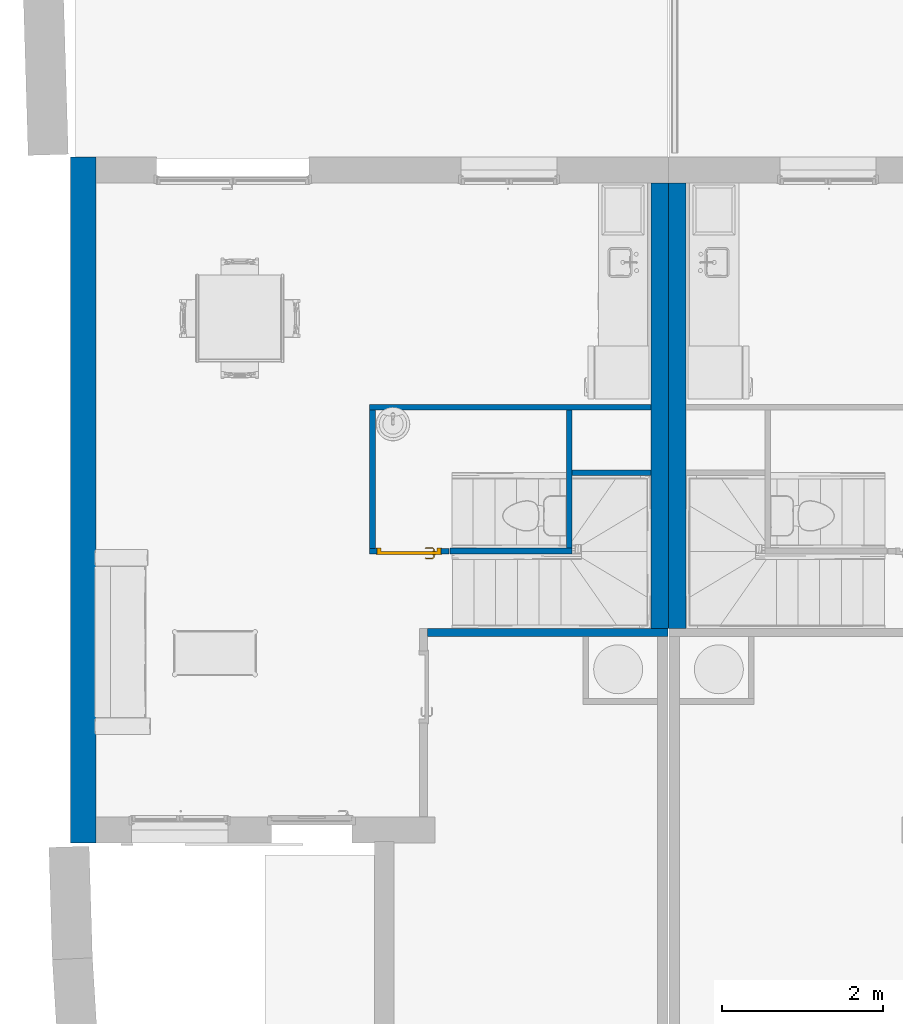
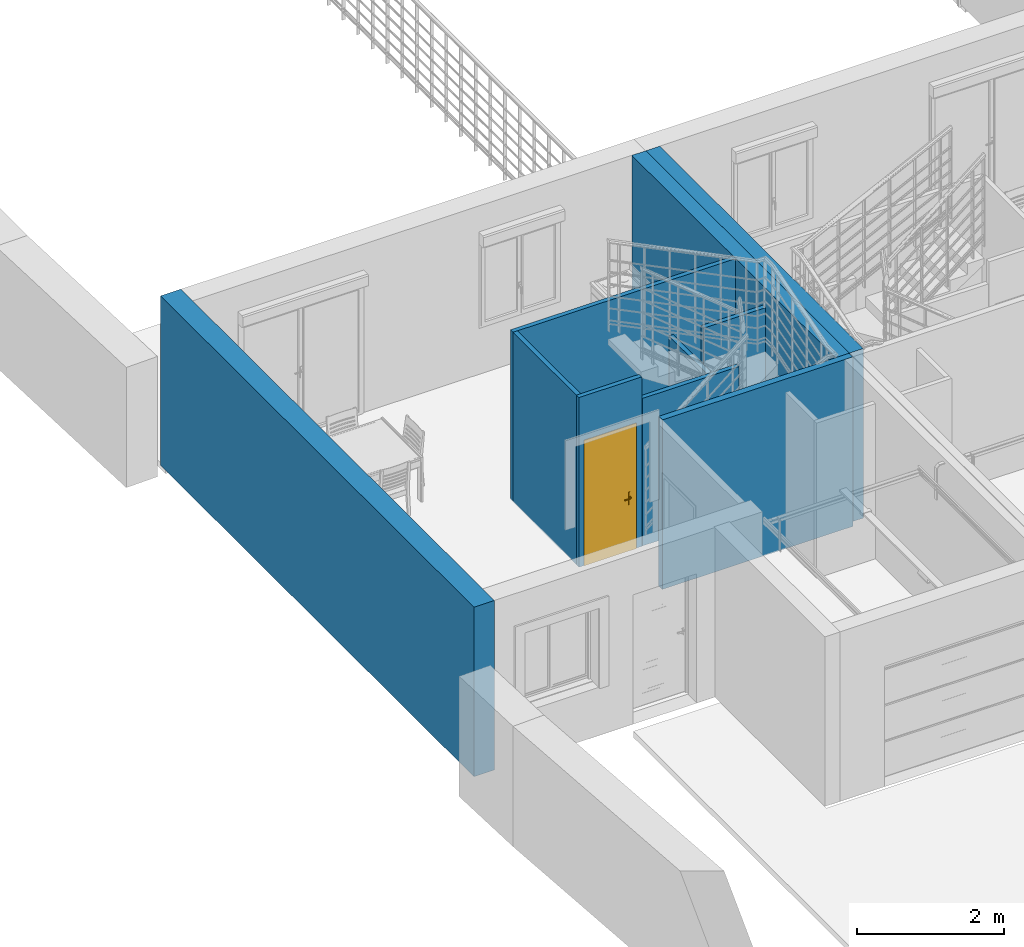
# One storey, part 9 of 30: 10 walls, 1 door, 1 opening.
"""IFC2X3 building model written with IfcOpenShell, lengths in metres."""

from ifc_helpers import new_model, entity, si_unit, converted_unit, derived_unit, direction, frame, frame_2d, origin, place, context, subcontext, project, spatial, rectangle, extrude, faceted_brep, source, transform, mapped, material, material_list, layer, layer_set, layer_usage, type_object, type_shapes, element, fill, save


model = new_model("IFC2X3")

# Units and contexts
model_context = context("Model", 3, precision=1e-05, world=origin(), true_north=direction((6.12303176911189e-17, 1.0)))
body_context = subcontext(model_context, "Body", "Model", "MODEL_VIEW")
ifc_project = project(units=[si_unit("LENGTHUNIT", "METRE"), si_unit("AREAUNIT", "SQUARE_METRE"), si_unit("VOLUMEUNIT", "CUBIC_METRE"), converted_unit("PLANEANGLEUNIT", "DEGREE", entity("IfcRatioMeasure", 0.0174532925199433), si_unit("PLANEANGLEUNIT", "RADIAN"), dimensions=[0, 0, 0, 0, 0, 0, 0]), si_unit("MASSUNIT", "GRAM", prefix="KILO"), derived_unit("MASSDENSITYUNIT", [(si_unit("MASSUNIT", "GRAM", prefix="KILO"), 1), (si_unit("LENGTHUNIT", "METRE"), -3)]), si_unit("TIMEUNIT", "SECOND"), si_unit("FREQUENCYUNIT", "HERTZ"), si_unit("THERMODYNAMICTEMPERATUREUNIT", "DEGREE_CELSIUS"), derived_unit("THERMALTRANSMITTANCEUNIT", [(si_unit("MASSUNIT", "GRAM", prefix="KILO"), 1), (si_unit("THERMODYNAMICTEMPERATUREUNIT", "KELVIN"), -1), (si_unit("TIMEUNIT", "SECOND"), -3)]), derived_unit("VOLUMETRICFLOWRATEUNIT", [(si_unit("LENGTHUNIT", "METRE"), 3), (si_unit("TIMEUNIT", "SECOND"), -1)]), si_unit("ELECTRICCURRENTUNIT", "AMPERE"), si_unit("ELECTRICVOLTAGEUNIT", "VOLT"), si_unit("POWERUNIT", "WATT"), si_unit("FORCEUNIT", "NEWTON", prefix="KILO"), si_unit("ILLUMINANCEUNIT", "LUX"), si_unit("LUMINOUSFLUXUNIT", "LUMEN"), si_unit("LUMINOUSINTENSITYUNIT", "CANDELA"), derived_unit("USERDEFINED", [(si_unit("MASSUNIT", "GRAM", prefix="KILO"), -1), (si_unit("LENGTHUNIT", "METRE"), -2), (si_unit("TIMEUNIT", "SECOND"), 3), (si_unit("LUMINOUSFLUXUNIT", "LUMEN"), 1)]), derived_unit("LINEARVELOCITYUNIT", [(si_unit("LENGTHUNIT", "METRE"), 1), (si_unit("TIMEUNIT", "SECOND"), -1)]), si_unit("PRESSUREUNIT", "PASCAL"), derived_unit("USERDEFINED", [(si_unit("LENGTHUNIT", "METRE"), -2), (si_unit("MASSUNIT", "GRAM", prefix="KILO"), 1), (si_unit("TIMEUNIT", "SECOND"), -2)])], contexts=[model_context])

# Site, building, storey
site_placement = place(None, origin())
site = spatial("IfcSite", under=ifc_project, at=site_placement, Name="Surface", CompositionType="ELEMENT")
building_placement = place(site_placement, origin())
building = spatial("IfcBuilding", under=site, at=building_placement, CompositionType="ELEMENT")
storey_placement = place(building_placement, origin())
storey = spatial("IfcBuildingStorey", under=building, at=storey_placement, Name="Plan des fondations  Maisons 1 et 2", CompositionType="ELEMENT", Elevation=0.0)

# Walls
ifc_material_1 = material(Name="Enduit blanc cassé2")
ifc_layer_1 = layer(ifc_material_1, 0.02)
ifc_material_2 = material(Name="Parpaing")
ifc_layer_2 = layer(ifc_material_2, 0.2)
ifc_material_3 = material(Name="Isolant")
ifc_layer_3 = layer(ifc_material_3, 0.1)
ifc_layer_set_1 = layer_set([ifc_layer_1, ifc_layer_2, ifc_layer_3], Name="Mur de base:Ext. Parpaing 20 + Isolant 10 enduit blanc cassé")
ifc_layer_usage_1 = layer_usage(ifc_layer_set_1, "AXIS2", "NEGATIVE", 0.16)
wall_type_1 = type_object("IfcWallType", Name="Mur de base:Ext. Parpaing 20 + Isolant 10 enduit blanc cassé", PredefinedType="STANDARD", material=ifc_layer_set_1)
wall_1_placement = place(storey_placement, frame((61.5463634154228, 79.8877566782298, 0.0), z_axis=(0.0, 0.0, 1.0), x_axis=(0.0, 1.0, 0.0)))
element("IfcWallStandardCase", 1, at=wall_1_placement, inside=storey, type_object=wall_type_1, material=ifc_layer_usage_1, Name="Mur de base:Ext. Parpaing 20 + Isolant 10 enduit blanc cassé", ObjectType="Mur de base:Ext. Parpaing 20 + Isolant 10 enduit blanc cassé", context=body_context, shape_type="SweptSolid", body=[
    extrude(rectangle(XDim=8.54, YDim=0.319999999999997, at=frame_2d((4.27, 1.23512311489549e-15), x_axis=(-1.0, 0.0))), origin(), (0.0, 0.0, 1.0), 2.82),
])
ifc_layer_4 = layer(ifc_material_1, 0.02)
ifc_layer_5 = layer(ifc_material_2, 0.1)
ifc_layer_6 = layer(ifc_material_3, 0.1)
ifc_layer_set_2 = layer_set([ifc_layer_4, ifc_layer_5, ifc_layer_6], Name="Mur de base:Ext. Parpaing 10 + Isolant 10 enduit blanc cassé")
ifc_layer_usage_2 = layer_usage(ifc_layer_set_2, "AXIS2", "POSITIVE", -0.11)
wall_type_2 = type_object("IfcWallType", Name="Mur de base:Ext. Parpaing 10 + Isolant 10 enduit blanc cassé", PredefinedType="STANDARD", material=ifc_layer_set_2)
wall_2_placement = place(storey_placement, frame((68.9446263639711, 88.1077566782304, 0.0), z_axis=(0.0, 0.0, 1.0), x_axis=(0.0, -1.0, 0.0)))
element("IfcWallStandardCase", 2, at=wall_2_placement, inside=storey, type_object=wall_type_2, material=ifc_layer_usage_2, Name="Mur de base:Ext. Parpaing 10 + Isolant 10 enduit blanc cassé", ObjectType="Mur de base:Ext. Parpaing 10 + Isolant 10 enduit blanc cassé", context=body_context, shape_type="SweptSolid", body=[
    extrude(rectangle(XDim=5.55000000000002, YDim=0.220000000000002, at=frame_2d((2.77500000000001, 0.0), x_axis=(-1.0, 0.0))), origin(), (0.0, 0.0, 1.0), 2.82),
])
ifc_layer_usage_3 = layer_usage(ifc_layer_set_2, "AXIS2", "NEGATIVE", 0.11)
wall_3_placement = place(storey_placement, frame((68.7246263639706, 88.1077566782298, 0.0), z_axis=(0.0, 0.0, 1.0), x_axis=(0.0, -1.0, 0.0)))
element("IfcWallStandardCase", 3, at=wall_3_placement, inside=storey, type_object=wall_type_2, material=ifc_layer_usage_3, Name="Mur de base:Ext. Parpaing 10 + Isolant 10 enduit blanc cassé", ObjectType="Mur de base:Ext. Parpaing 10 + Isolant 10 enduit blanc cassé", context=body_context, shape_type="SweptSolid", body=[
    extrude(rectangle(XDim=5.55000000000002, YDim=0.220000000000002, at=frame_2d((2.77500000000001, -9.5062846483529e-16), x_axis=(-1.0, 0.0))), origin(), (0.0, 0.0, 1.0), 2.82),
])
ifc_material_4 = material(Name="Peinture - Blanc")
ifc_layer_7 = layer(ifc_material_4, 0.1)
ifc_layer_set_3 = layer_set([ifc_layer_7], Name="Mur de base:Int.  Platre 100 mm en blanc 2")
ifc_layer_usage_4 = layer_usage(ifc_layer_set_3, "AXIS2", "POSITIVE", -0.05)
wall_type_3 = type_object("IfcWallType", Name="Mur de base:Int.  Platre 100 mm en blanc 2", PredefinedType="STANDARD", material=ifc_layer_set_3)
wall_4_placement = place(storey_placement, frame((65.8346263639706, 82.5077566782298, 0.0)))
element("IfcWallStandardCase", 4, at=wall_4_placement, inside=storey, type_object=wall_type_3, material=ifc_layer_usage_4, Name="Mur de base:Int.  Platre 100 mm en blanc 2", ObjectType="Mur de base:Int.  Platre 100 mm en blanc 2", context=body_context, shape_type="SweptSolid", body=[
    extrude(rectangle(XDim=2.99500000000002, YDim=0.100000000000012, at=frame_2d((1.49750000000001, -1.196959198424e-15), x_axis=(-1.0, 0.0))), origin(), (0.0, 0.0, 1.0), 2.82),
])
ifc_layer_8 = layer(ifc_material_4, 0.07)
ifc_layer_set_4 = layer_set([ifc_layer_8], Name="Mur de base:Int.  Platre 70 mm en blanc")
ifc_layer_usage_5 = layer_usage(ifc_layer_set_4, "AXIS2", "POSITIVE", -0.035)
wall_type_4 = type_object("IfcWallType", Name="Mur de base:Int.  Platre 70 mm en blanc", PredefinedType="STANDARD", material=ifc_layer_set_4)
wall_5_placement = place(storey_placement, frame((68.6146263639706, 85.3127566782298, 0.0), z_axis=(0.0, 0.0, 1.0), x_axis=(-1.0, 0.0, 0.0)))
element("IfcWallStandardCase", 5, at=wall_5_placement, inside=storey, type_object=wall_type_4, material=ifc_layer_usage_5, Name="Mur de base:Int.  Platre 70 mm en blanc", ObjectType="Mur de base:Int.  Platre 70 mm en blanc", context=body_context, shape_type="SweptSolid", body=[
    extrude(rectangle(XDim=3.50211659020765, YDim=0.0699999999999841, at=frame_2d((1.75105829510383, -3.61169427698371e-15), x_axis=(-1.0, 0.0))), origin(), (0.0, 0.0, 1.0), 2.82),
])
ifc_layer_usage_6 = layer_usage(ifc_layer_set_4, "AXIS2", "POSITIVE", -0.035)
wall_6_placement = place(storey_placement, frame((65.147509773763, 83.5546279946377, 0.0), z_axis=(0.0, 0.0, 1.0), x_axis=(0.0, 1.0, 0.0)))
element("IfcWallStandardCase", 6, at=wall_6_placement, inside=storey, type_object=wall_type_4, material=ifc_layer_usage_6, Name="Mur de base:Int.  Platre 70 mm en blanc", ObjectType="Mur de base:Int.  Platre 70 mm en blanc", context=body_context, shape_type="SweptSolid", body=[
    extrude(rectangle(XDim=1.72312868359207, YDim=0.0700000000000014, at=frame_2d((0.861564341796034, -1.3392065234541e-15), x_axis=(-1.0, 0.0))), origin(), (0.0, 0.0, 1.0), 2.82),
])
ifc_layer_usage_7 = layer_usage(ifc_layer_set_4, "AXIS2", "POSITIVE", -0.035)
wall_7_placement = place(storey_placement, frame((67.6346263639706, 83.5227566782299, 0.0), z_axis=(0.0, 0.0, 1.0), x_axis=(-1.0, 0.0, 0.0)))
element("IfcWallStandardCase", 7, at=wall_7_placement, inside=storey, type_object=wall_type_4, material=ifc_layer_usage_7, Name="Mur de base:Int.  Platre 70 mm en blanc", ObjectType="Mur de base:Int.  Platre 70 mm en blanc", context=body_context, shape_type="SweptSolid", body=[
    extrude(rectangle(XDim=1.52171659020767, YDim=0.0699999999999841, at=frame_2d((0.760858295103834, 5.20417042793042e-17), x_axis=(-1.0, 0.0))), origin(), (0.0, 0.0, 1.0), 2.45350535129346),
])
ifc_layer_usage_8 = layer_usage(ifc_layer_set_4, "AXIS2", "POSITIVE", -0.035)
wall_8_placement = place(storey_placement, frame((67.5996263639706, 83.5577566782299, 0.0), z_axis=(0.0, 0.0, 1.0), x_axis=(0.0, 1.0, 0.0)))
element("IfcWallStandardCase", 8, at=wall_8_placement, inside=storey, type_object=wall_type_4, material=ifc_layer_usage_8, Name="Mur de base:Int.  Platre 70 mm en blanc", ObjectType="Mur de base:Int.  Platre 70 mm en blanc", context=body_context, shape_type="SweptSolid", body=[
    extrude(rectangle(XDim=1.71999999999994, YDim=0.0700000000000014, at=frame_2d((0.859999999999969, -1.32879818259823e-15), x_axis=(-1.0, 0.0))), origin(), (0.0, 0.0, 1.0), 1.9),
])

# Wall, opening, door
ifc_layer_usage_9 = layer_usage(ifc_layer_set_4, "AXIS2", "POSITIVE", -0.035)
wall_9_placement = place(storey_placement, frame((66.102909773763, 83.5196279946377, 0.0), z_axis=(0.0, 0.0, 1.0), x_axis=(-1.0, 0.0, 0.0)))
wall_9 = element("IfcWallStandardCase", 9, at=wall_9_placement, inside=storey, type_object=wall_type_4, material=ifc_layer_usage_9, Name="Mur de base:Int.  Platre 70 mm en blanc", ObjectType="Mur de base:Int.  Platre 70 mm en blanc", context=body_context, shape_type="SweptSolid", body=[
    extrude(rectangle(XDim=0.990400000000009, YDim=0.0699999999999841, at=frame_2d((0.495200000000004, -5.69336244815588e-15), x_axis=(-1.0, 0.0))), origin(), (0.0, 0.0, 1.0), 2.82),
])
opening_placement = place(wall_9_placement, frame((0.100399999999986, -0.0350000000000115, 0.0)))
opening = element("IfcOpeningElement", 10, at=opening_placement, cuts=wall_9, Name="FR_Simple (R):73 x 204 - (70):1", ObjectType="Opening", context=body_context, shape_type="SweptSolid", body=[
    extrude(rectangle(XDim=2.075, YDim=0.799999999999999, at=frame_2d((1.0375, 0.4), x_axis=(1.0, 0.0))), frame((0.0, 0.0, 0.0), z_axis=(0.0, 1.0, 0.0), x_axis=(0.0, 0.0, 1.0)), (0.0, 0.0, 1.0), 0.07),
])
ifc_material_5 = material(Name="Poignée Porte")
ifc_material_6 = material(Name="Dormants Portes")
ifc_material_7 = material(Name="Panneaux Portes")
ifc_material_list_1 = material_list([ifc_material_5, ifc_material_6, ifc_material_7])
ifc_material_list_2 = material_list([ifc_material_5, ifc_material_6, ifc_material_7])
door_style = type_object("IfcDoorStyle", Name="73 x 204 - (70)", ConstructionType="NOTDEFINED", OperationType="SINGLE_SWING_RIGHT", ParameterTakesPrecedence=False, Sizeable=False, material=ifc_material_list_2)
shared_shape = source(origin(), body_context, "Body", "Brep", [
    faceted_brep([(0.710000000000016, -0.0130000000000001, 0.764641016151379), (0.720352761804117, -0.0130000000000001, 0.766003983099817), (0.730000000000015, -0.0130000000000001, 0.770000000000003), (0.730000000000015, -0.0130000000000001, 0.980000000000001), (0.720352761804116, -0.0130000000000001, 0.983996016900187), (0.710000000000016, -0.0130000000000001, 0.985358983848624), (0.699647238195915, -0.0130000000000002, 0.983996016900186), (0.690000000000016, -0.0130000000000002, 0.980000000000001), (0.690000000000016, -0.0130000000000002, 0.770000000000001), (0.699647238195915, -0.0130000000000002, 0.766003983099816), (0.730000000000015, -0.00800000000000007, 0.980000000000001), (0.730000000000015, -0.00800000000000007, 0.770000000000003), (0.720352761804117, -0.0080000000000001, 0.766003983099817), (0.710000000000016, -0.00800000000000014, 0.764641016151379), (0.699647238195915, -0.00800000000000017, 0.766003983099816), (0.690000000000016, -0.00800000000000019, 0.770000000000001), (0.690000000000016, -0.00800000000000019, 0.980000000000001), (0.699647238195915, -0.00800000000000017, 0.983996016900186), (0.710000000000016, -0.00800000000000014, 0.985358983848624), (0.720352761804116, -0.0080000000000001, 0.983996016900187)], [[[0, 1, 2, 3, 4, 5, 6, 7, 8, 9]], [[10, 11, 12, 13, 14, 15, 16, 17, 18, 19]], [[1, 12, 11, 2]], [[0, 13, 12, 1]], [[9, 14, 13, 0]], [[9, 8, 15, 14]], [[15, 8, 7, 16]], [[6, 17, 16, 7]], [[5, 18, 17, 6]], [[4, 19, 18, 5]], [[4, 3, 10, 19]], [[10, 3, 2, 11]]]),
    faceted_brep([(0.730000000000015, 0.0319999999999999, 0.770000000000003), (0.730000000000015, 0.0319999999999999, 0.980000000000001), (0.720352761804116, 0.0319999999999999, 0.983996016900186), (0.710000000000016, 0.0319999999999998, 0.985358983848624), (0.699647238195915, 0.0319999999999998, 0.983996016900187), (0.690000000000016, 0.0319999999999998, 0.980000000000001), (0.690000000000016, 0.0319999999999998, 0.770000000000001), (0.699647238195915, 0.0319999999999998, 0.766003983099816), (0.710000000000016, 0.0319999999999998, 0.764641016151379), (0.720352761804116, 0.0319999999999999, 0.766003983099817), (0.710000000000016, 0.0369999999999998, 0.985358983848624), (0.720352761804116, 0.0369999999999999, 0.983996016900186), (0.730000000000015, 0.0369999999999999, 0.980000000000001), (0.730000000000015, 0.0369999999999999, 0.770000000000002), (0.720352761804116, 0.0369999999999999, 0.766003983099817), (0.710000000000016, 0.0369999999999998, 0.764641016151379), (0.699647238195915, 0.0369999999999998, 0.766003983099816), (0.690000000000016, 0.0369999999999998, 0.770000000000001), (0.690000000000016, 0.0369999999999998, 0.980000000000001), (0.699647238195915, 0.0369999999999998, 0.983996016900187)], [[[0, 1, 2, 3, 4, 5, 6, 7, 8, 9]], [[10, 11, 12, 13, 14, 15, 16, 17, 18, 19]], [[4, 19, 18, 5]], [[3, 10, 19, 4]], [[2, 11, 10, 3]], [[2, 1, 12, 11]], [[12, 1, 0, 13]], [[9, 14, 13, 0]], [[8, 15, 14, 9]], [[7, 16, 15, 8]], [[7, 6, 17, 16]], [[17, 6, 5, 18]]]),
    faceted_brep([(0.707974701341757, -0.0130000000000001, 0.907780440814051), (0.712025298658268, -0.0130000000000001, 0.907780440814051), (0.716000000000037, -0.0130000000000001, 0.906999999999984), (0.716000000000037, -0.0130000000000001, 0.892999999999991), (0.712025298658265, -0.0130000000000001, 0.892219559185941), (0.707974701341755, -0.0130000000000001, 0.89221955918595), (0.703999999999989, -0.0130000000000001, 0.893000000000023), (0.703999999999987, -0.0130000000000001, 0.90699999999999), (0.712025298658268, -0.0390045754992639, 0.907780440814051), (0.716000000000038, -0.0406509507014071, 0.906999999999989), (0.707974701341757, -0.0373267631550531, 0.907780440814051), (0.694298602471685, -0.0510028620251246, 0.907780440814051), (0.695976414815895, -0.0550534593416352, 0.907780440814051), (0.609142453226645, -0.0550534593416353, 0.90778044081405), (0.610820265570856, -0.0510028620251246, 0.90778044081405), (0.604342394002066, -0.0445249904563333, 0.90778044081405), (0.601478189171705, -0.0473891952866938, 0.90778044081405), (0.703999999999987, -0.0356803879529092, 0.90699999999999), (0.703999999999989, -0.0356803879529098, 0.893000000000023), (0.707974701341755, -0.0373267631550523, 0.89221955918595), (0.712025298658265, -0.0390045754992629, 0.89221955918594), (0.695976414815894, -0.0550534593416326, 0.89221955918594), (0.694298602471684, -0.0510028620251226, 0.89221955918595), (0.610820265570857, -0.0510028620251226, 0.89221955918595), (0.609142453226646, -0.0550534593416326, 0.89221955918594), (0.601478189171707, -0.0473891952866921, 0.89221955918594), (0.604342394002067, -0.044524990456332, 0.89221955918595), (0.716000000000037, -0.0406509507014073, 0.892999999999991), (0.69762279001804, -0.059028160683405, 0.906999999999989), (0.692652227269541, -0.0470281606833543, 0.90699999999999), (0.692652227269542, -0.0470281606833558, 0.893000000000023), (0.697622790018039, -0.0590281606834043, 0.892999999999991), (0.65255943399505, -0.053182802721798, 0.907878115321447), (0.657692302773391, -0.0590281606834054, 0.906999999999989), (0.607496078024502, -0.0590281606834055, 0.906999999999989), (0.652559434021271, -0.0470281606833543, 0.90699999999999), (0.612466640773, -0.0470281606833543, 0.906999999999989), (0.652559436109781, -0.0470281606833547, 0.893000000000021), (0.612466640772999, -0.0470281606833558, 0.893000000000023), (0.652559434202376, -0.0531828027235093, 0.892121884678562), (0.647426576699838, -0.0590281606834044, 0.892999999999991), (0.607496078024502, -0.0590281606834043, 0.892999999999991), (0.607152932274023, -0.0417144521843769, 0.89300000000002), (0.598667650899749, -0.0501997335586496, 0.892999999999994), (0.598667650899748, -0.0501997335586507, 0.906999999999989), (0.607152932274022, -0.0417144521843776, 0.906999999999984)], [[[0, 1, 2, 3, 4, 5, 6, 7]], [[2, 1, 8, 9]], [[1, 0, 10, 11, 12, 8]], [[13, 14, 15, 16]], [[0, 7, 17, 10]], [[18, 17, 7, 6]], [[5, 19, 18, 6]], [[5, 4, 20, 21, 22, 19]], [[23, 24, 25, 26]], [[3, 27, 20, 4]], [[9, 27, 3, 2]], [[9, 8, 12, 28]], [[10, 17, 29, 11]], [[30, 29, 17, 18]], [[18, 19, 22, 30]], [[20, 27, 31, 21]], [[28, 31, 27, 9]], [[12, 32, 33]], [[13, 33, 32]], [[33, 28, 12]], [[33, 13, 34]], [[11, 35, 32]], [[32, 12, 11]], [[32, 35, 14]], [[35, 11, 29]], [[36, 14, 35]], [[13, 32, 14]], [[30, 37, 38, 36, 35, 29]], [[39, 37, 22]], [[40, 41, 24]], [[40, 21, 31]], [[39, 21, 40]], [[23, 37, 39]], [[39, 24, 23]], [[30, 22, 37]], [[37, 23, 38]], [[21, 39, 22]], [[24, 39, 40]], [[31, 28, 33, 34, 41, 40]], [[42, 26, 25, 43, 44, 16, 15, 45]], [[13, 16, 44, 34]], [[36, 45, 15, 14]], [[42, 45, 36, 38]], [[38, 23, 26, 42]], [[24, 41, 43, 25]], [[44, 43, 41, 34]]]),
    faceted_brep([(0.712025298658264, 0.0369999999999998, 0.907780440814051), (0.707974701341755, 0.0369999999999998, 0.907780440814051), (0.703999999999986, 0.0369999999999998, 0.90699999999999), (0.703999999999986, 0.0369999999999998, 0.89300000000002), (0.707974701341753, 0.0369999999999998, 0.892219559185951), (0.712025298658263, 0.0369999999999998, 0.892219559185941), (0.716000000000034, 0.0369999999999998, 0.892999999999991), (0.716000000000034, 0.0369999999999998, 0.90699999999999), (0.703999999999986, 0.0594852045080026, 0.90699999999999), (0.703999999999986, 0.0594852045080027, 0.89300000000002), (0.707974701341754, 0.0611315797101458, 0.907780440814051), (0.712025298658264, 0.0628093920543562, 0.907780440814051), (0.695838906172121, 0.0789957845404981, 0.907780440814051), (0.69416109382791, 0.0749451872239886, 0.907780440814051), (0.610793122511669, 0.0749451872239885, 0.907780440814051), (0.609115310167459, 0.0789957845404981, 0.907780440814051), (0.601451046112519, 0.071331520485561, 0.907780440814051), (0.604315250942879, 0.0684673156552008, 0.907780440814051), (0.716000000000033, 0.0644557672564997, 0.90699999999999), (0.716000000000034, 0.0644557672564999, 0.892999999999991), (0.712025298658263, 0.0628093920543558, 0.892219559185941), (0.707974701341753, 0.0611315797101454, 0.892219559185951), (0.69416109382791, 0.0749451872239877, 0.892219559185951), (0.69583890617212, 0.0789957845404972, 0.892219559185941), (0.609115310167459, 0.0789957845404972, 0.89221955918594), (0.610793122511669, 0.0749451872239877, 0.89221955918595), (0.60431525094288, 0.0684673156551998, 0.89221955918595), (0.60145104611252, 0.07133152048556, 0.89221955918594), (0.692514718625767, 0.07097048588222, 0.89300000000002), (0.692514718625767, 0.0709704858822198, 0.90699999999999), (0.697485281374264, 0.0829704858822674, 0.90699999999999), (0.697485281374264, 0.082970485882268, 0.892999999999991), (0.652477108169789, 0.0709704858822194, 0.90699999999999), (0.612439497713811, 0.0709704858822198, 0.90699999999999), (0.612439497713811, 0.0709704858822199, 0.89300000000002), (0.652477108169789, 0.0709704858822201, 0.89300000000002), (0.652477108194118, 0.0771249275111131, 0.907878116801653), (0.647399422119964, 0.0829704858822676, 0.90699999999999), (0.607468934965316, 0.0829704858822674, 0.90699999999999), (0.657554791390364, 0.0829704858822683, 0.892999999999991), (0.607468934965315, 0.082970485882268, 0.892999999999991), (0.65247710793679, 0.0771249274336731, 0.892121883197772), (0.598640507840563, 0.0741420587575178, 0.90699999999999), (0.598640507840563, 0.074142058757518, 0.892999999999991), (0.607125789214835, 0.0656567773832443, 0.89300000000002), (0.607125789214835, 0.0656567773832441, 0.90699999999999)], [[[0, 1, 2, 3, 4, 5, 6, 7]], [[8, 9, 3, 2]], [[1, 10, 8, 2]], [[1, 0, 11, 12, 13, 10]], [[14, 15, 16, 17]], [[7, 18, 11, 0]], [[18, 7, 6, 19]], [[6, 5, 20, 19]], [[5, 4, 21, 22, 23, 20]], [[24, 25, 26, 27]], [[4, 3, 9, 21]], [[28, 9, 8, 29]], [[8, 10, 13, 29]], [[18, 30, 12, 11]], [[31, 30, 18, 19]], [[19, 20, 23, 31]], [[21, 9, 28, 22]], [[28, 29, 32, 33, 34, 35]], [[36, 32, 13]], [[37, 38, 15]], [[37, 12, 30]], [[36, 12, 37]], [[14, 32, 36]], [[36, 15, 14]], [[29, 13, 32]], [[32, 14, 33]], [[12, 36, 13]], [[15, 36, 37]], [[30, 31, 39, 40, 38, 37]], [[23, 41, 39]], [[24, 39, 41]], [[39, 31, 23]], [[39, 24, 40]], [[22, 35, 41]], [[41, 23, 22]], [[41, 35, 25]], [[35, 22, 28]], [[34, 25, 35]], [[24, 41, 25]], [[17, 16, 42, 43, 27, 26, 44, 45]], [[44, 34, 33, 45]], [[33, 14, 17, 45]], [[15, 38, 42, 16]], [[42, 38, 40, 43]], [[24, 27, 43, 40]], [[34, 44, 26, 25]]]),
    faceted_brep([(0.800000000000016, 0.0, 0.0), (0.810000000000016, 0.0, 0.0), (0.810000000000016, -0.00799999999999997, 0.0), (0.765000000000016, -0.00799999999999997, 0.0), (0.765000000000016, 0.032, 0.0), (0.750000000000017, 0.032, 0.0), (0.750000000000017, 0.0780000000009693, 0.0), (0.810000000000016, 0.0780000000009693, 0.0), (0.810000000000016, 0.0700000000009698, 0.0), (0.800000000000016, 0.0700000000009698, 0.0), (0.800000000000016, 0.0700000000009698, 2.075), (0.800000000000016, 0.0, 2.075), (0.810000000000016, 0.0700000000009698, 2.085), (-0.00999999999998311, 0.0700000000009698, 2.085), (-0.00999999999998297, 0.0700000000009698, 0.0), (0.0, 0.0700000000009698, 0.0), (0.0, 0.0700000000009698, 2.075), (0.810000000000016, 0.0780000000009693, 2.085), (0.750000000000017, 0.0780000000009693, 2.025), (0.0500000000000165, 0.0780000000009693, 2.025), (0.0500000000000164, 0.0780000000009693, 0.0), (-0.00999999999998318, 0.0780000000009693, 0.0), (-0.00999999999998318, 0.0780000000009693, 2.085), (0.750000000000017, 0.032, 2.025), (0.765000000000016, 0.032, 2.04), (0.0350000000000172, 0.032, 2.04), (0.0350000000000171, 0.032, 0.0), (0.0500000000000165, 0.032, 0.0), (0.0500000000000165, 0.032, 2.025), (0.765000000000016, -0.00799999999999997, 2.04), (0.810000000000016, -0.00799999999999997, 2.085), (-0.00999999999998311, -0.00799999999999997, 2.085), (-0.0099999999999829, -0.00799999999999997, 0.0), (0.0350000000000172, -0.00799999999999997, 0.0), (0.0350000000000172, -0.00799999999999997, 2.04), (0.810000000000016, 0.0, 2.085), (0.0, 0.0, 2.075), (0.0, 0.0, 0.0), (-0.00999999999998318, 0.0, 0.0), (-0.00999999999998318, 0.0, 2.085)], [[[0, 1, 2, 3, 4, 5, 6, 7, 8, 9]], [[9, 10, 11, 0]], [[8, 12, 13, 14, 15, 16, 10, 9]], [[7, 17, 12, 8]], [[6, 18, 19, 20, 21, 22, 17, 7]], [[5, 23, 18, 6]], [[4, 24, 25, 26, 27, 28, 23, 5]], [[3, 29, 24, 4]], [[2, 30, 31, 32, 33, 34, 29, 3]], [[1, 35, 30, 2]], [[0, 11, 36, 37, 38, 39, 35, 1]], [[10, 16, 36, 11]], [[17, 22, 13, 12]], [[23, 28, 19, 18]], [[29, 34, 25, 24]], [[35, 39, 31, 30]], [[37, 15, 14, 21, 20, 27, 26, 33, 32, 38]], [[16, 15, 37, 36]], [[22, 21, 14, 13]], [[28, 27, 20, 19]], [[34, 33, 26, 25]], [[39, 38, 32, 31]]]),
    faceted_brep([(0.765000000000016, -0.00799999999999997, 2.04), (0.0350000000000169, -0.00799999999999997, 2.04), (0.0350000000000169, -0.00799999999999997, 0.0), (0.765000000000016, -0.00799999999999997, 0.0), (0.765000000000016, 0.032, 2.04), (0.765000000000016, 0.032, 0.0), (0.0350000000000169, 0.032, 0.0), (0.0350000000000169, 0.032, 2.04)], [[[0, 1, 2, 3]], [[4, 5, 6, 7]], [[3, 5, 4, 0]], [[2, 6, 5, 3]], [[1, 7, 6, 2]], [[0, 4, 7, 1]]]),
])
type_shapes(door_style, [shared_shape])
door_placement = place(opening_placement, frame((0.800000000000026, 0.0700000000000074, 0.0), z_axis=(0.0, 0.0, 1.0), x_axis=(-1.0, 0.0, 0.0)))
door = element("IfcDoor", 11, at=door_placement, inside=storey, type_object=door_style, material=ifc_material_list_1, Name="FR_Simple (R):73 x 204 - (70)", ObjectType="FR_Simple (R):73 x 204 - (70)", OverallHeight=2.075, OverallWidth=0.8, context=body_context, shape_type="MappedRepresentation", body=[
    mapped(shared_shape, transform((0.0, 0.0, 0.0), scale=1.0)),
])
fill(opening, door)

# Wall
ifc_layer_usage_10 = layer_usage(ifc_layer_set_4, "AXIS2", "POSITIVE", -0.035)
wall_10_placement = place(storey_placement, frame((67.6346263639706, 84.4948372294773, 0.0)))
element("IfcWallStandardCase", 12, at=wall_10_placement, inside=storey, type_object=wall_type_4, material=ifc_layer_usage_10, Name="Mur de base:Int.  Platre 70 mm en blanc", ObjectType="Mur de base:Int.  Platre 70 mm en blanc", context=body_context, shape_type="SweptSolid", body=[
    extrude(rectangle(XDim=0.980000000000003, YDim=0.0699999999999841, at=frame_2d((0.490000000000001, -3.22658566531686e-15), x_axis=(-1.0, 0.0))), origin(), (0.0, 0.0, 1.0), 2.5),
])

save(model, "model.ifc")
